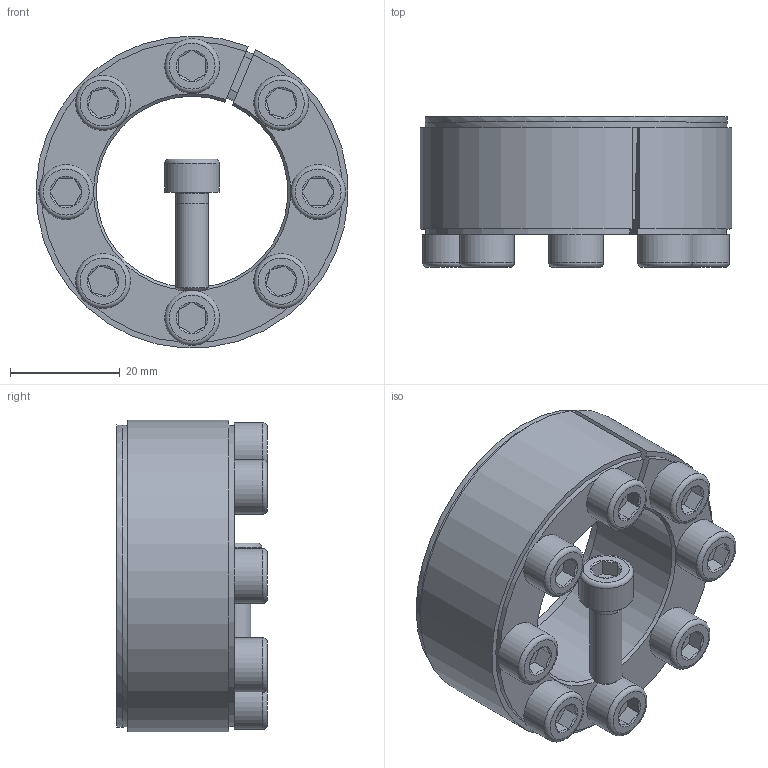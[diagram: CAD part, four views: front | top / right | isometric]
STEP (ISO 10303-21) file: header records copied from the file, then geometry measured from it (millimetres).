
FILE_DESCRIPTION( ( 'Unknown' ), '1' );
FILE_NAME( 'C:/Dokumente und Einstellungen/Sven/Desktop/homepage/cad - homepage/KBS52/KBS 52 - 35 x 57.stp', 'Unknown', ( 'Unknown' ), ( 'Unknown' ), 'XStep 1.0', 'Unknown', ' ' );
FILE_SCHEMA( ( 'automotive_design' ) );
Length unit declared in the file: millimetre
Products named in the file (3): Assem1; KBS 52 - 35 x 57; ISO EN DIN 4762 M6x18
Bounding box: 56.93 x 27.5 x 56.96 mm (x, y, z)
Volume: 65097.7 mm3; surface area: 31275.8 mm2
Topology: 11 solids, 11 shells, 281 faces, 553 edges, 328 vertices
Faces by surface type: plane 134, cone 69, cylinder 60, torus 18
Full cylindrical faces by diameter (mm): 5 x9, 6 x34, 10 x9, 55.175 x2
Entity records: 1741 total; most frequent: CARTESIAN_POINT 283, DIRECTION 263, ORIENTED_EDGE 196, AXIS2_PLACEMENT_3D 110, EDGE_CURVE 98, EDGE_LOOP 92, VERTEX_POINT 70, FACE_OUTER_BOUND 68
